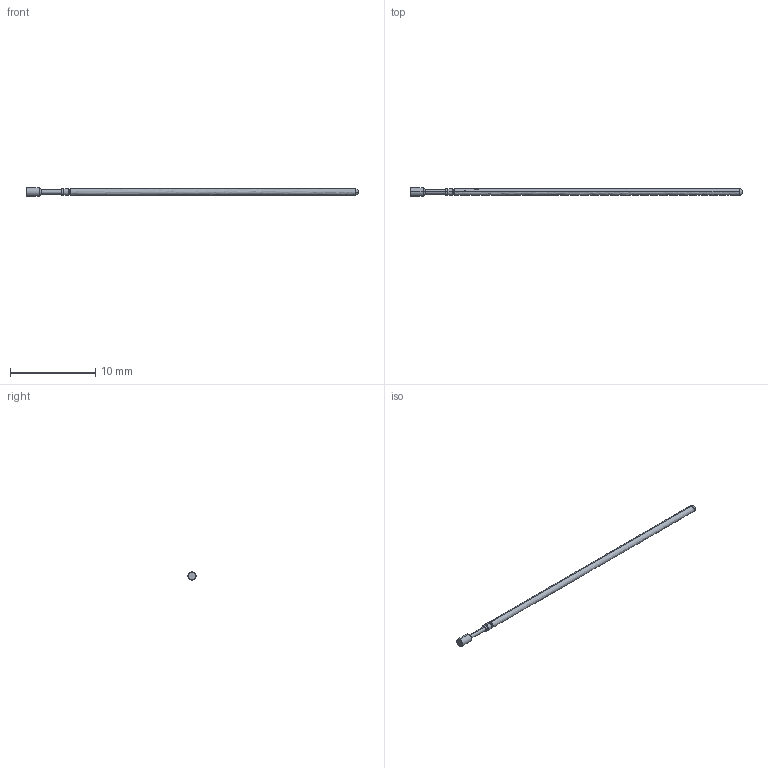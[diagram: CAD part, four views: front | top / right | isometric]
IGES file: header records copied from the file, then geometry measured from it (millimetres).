
Start section: SolidWorks IGES file using analytic representation for surfaces
Global section: file name: L:\probe solid model mockups\Solidworks models\POGO-72F RECD.IGS; native system: SolidWorks 2006 by SolidWorks Corporation; preprocessor: SolidWorks 2006 by SolidWorks Corporation; author: Ksnyder; date: 071211.135600; units: inch
Bounding box: 38.94 x 0.97 x 0.97 mm (x, y, z)
Volume: 29.4 mm3; surface area: 178.9 mm2
Topology: 1 solids, 1 shells, 25 faces, 52 edges, 28 vertices
Faces by surface type: revolution 22, plane 3
